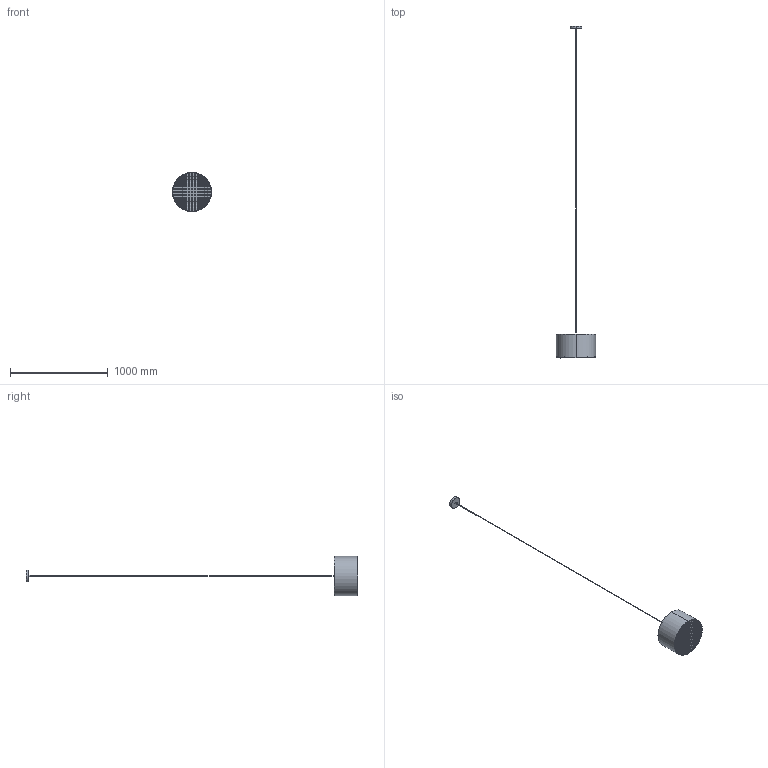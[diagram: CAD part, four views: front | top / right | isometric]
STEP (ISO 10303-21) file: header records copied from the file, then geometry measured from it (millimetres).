
FILE_DESCRIPTION (( 'STEP AP203' ), '1' );
FILE_NAME ('C1318_REMS.STEP', '2023-08-10T07:13:12', ( '' ), ( '' ), 'SwSTEP 2.0', 'SolidWorks 2018', '' );
FILE_SCHEMA (( 'CONFIG_CONTROL_DESIGN' ));
Products named in the file (1): C1318_REMS
Bounding box: 400 x 3388 x 400 mm (x, y, z)
Volume: 1690241 mm3; surface area: 982276.8 mm2
Topology: 12 solids, 12 shells, 1788 faces, 4765 edges, 2999 vertices
Faces by surface type: cylinder 1166, plane 617, sphere 5
Entity records: 55418 total; most frequent: CARTESIAN_POINT 17898, ORIENTED_EDGE 9502, DIRECTION 6193, EDGE_CURVE 4751, VERTEX_POINT 2990, VECTOR 2299, LINE 2299, AXIS2_PLACEMENT_3D 1947
